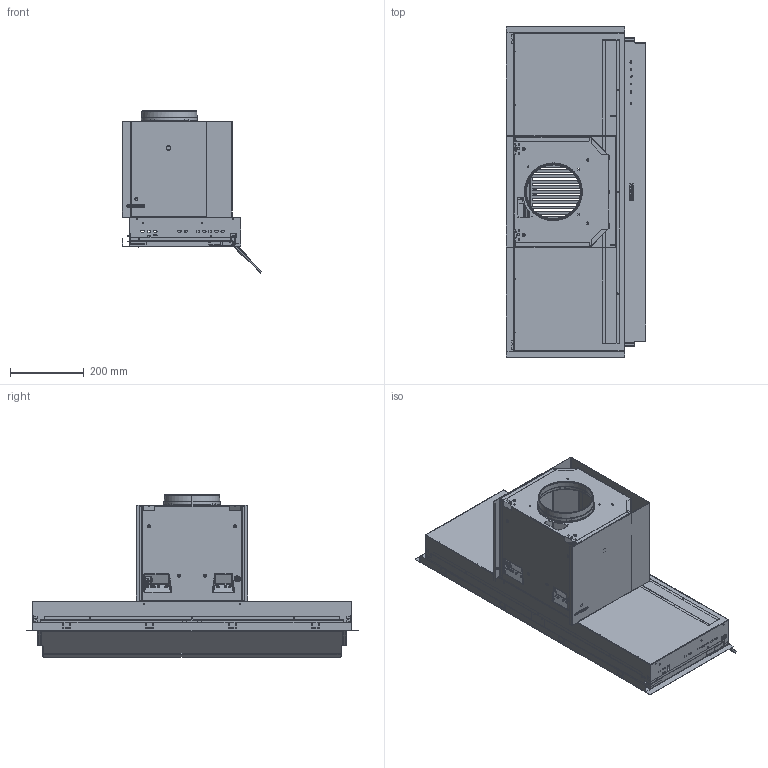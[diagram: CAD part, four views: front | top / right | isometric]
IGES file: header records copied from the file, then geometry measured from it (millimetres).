
Global section: file name: F:\_CONVERSIONE_CAD_2024_2025\_2024\03_3D kits new\Hoods\305.0705.073 3D001_Hoods_Maris_Drip-Free-Built-In\3D001_Hoods_Maris_Drip-Free-Built-In.igs; native system: Rhinoceros ( Feb 13 2024 ); preprocessor: Trout Lake IGES 012 Feb 13 2024; date: 240319.104218; units: millimetre
Bounding box: 377.14 x 898 x 438.91 mm (x, y, z)
Surface area: 3290120.1 mm2 (no closed solid volume)
Topology: 0 solids, 0 shells, 7265 faces, 42203 edges, 42066 vertices
Faces by surface type: bspline 7265
